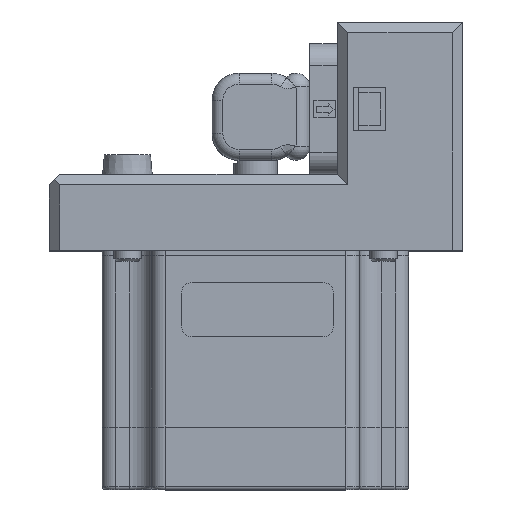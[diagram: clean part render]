
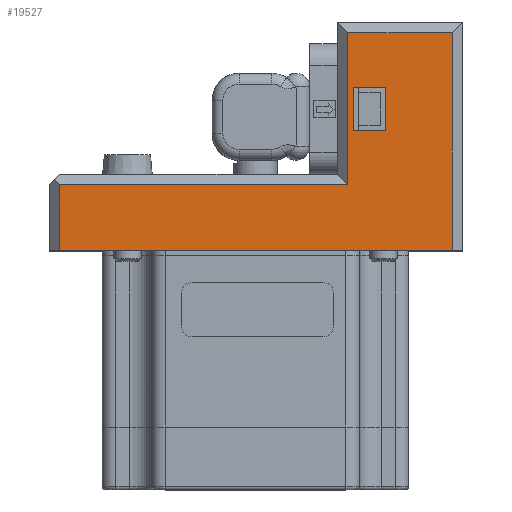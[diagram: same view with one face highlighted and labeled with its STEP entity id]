
A CAD part, top view. The second image highlights one B-rep face of the part: STEP entity #19527.
In plain terms, the highlighted planar face has unit normal (0, 0, 1) as drawn and (0, -1, 0) by its records, which use the part's own axes.
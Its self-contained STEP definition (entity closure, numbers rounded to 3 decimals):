
#1597=FACE_BOUND('',#4250,.T.);
#1954=PLANE('',#21005);
#3042=FACE_OUTER_BOUND('',#4249,.T.);
#4249=EDGE_LOOP('',(#17738,#17739,#17740,#17741,#17742,#17743));
#4250=EDGE_LOOP('',(#17744,#17745,#17746,#17747));
#6083=LINE('',#90027,#7588);
#6086=LINE('',#90033,#7591);
#6089=LINE('',#90039,#7594);
#6092=LINE('',#90043,#7597);
#6124=LINE('',#90148,#7629);
#6152=LINE('',#90230,#7657);
#6154=LINE('',#90235,#7659);
#6158=LINE('',#90242,#7663);
#6177=LINE('',#90287,#7682);
#6205=LINE('',#90457,#7710);
#7588=VECTOR('',#24402,10.);
#7591=VECTOR('',#24407,10.);
#7594=VECTOR('',#24412,10.);
#7597=VECTOR('',#24417,10.);
#7629=VECTOR('',#24517,10.);
#7657=VECTOR('',#24593,10.);
#7659=VECTOR('',#24597,10.);
#7663=VECTOR('',#24603,10.);
#7682=VECTOR('',#24636,10.);
#7710=VECTOR('',#24754,10.);
#9368=VERTEX_POINT('',#90024);
#9369=VERTEX_POINT('',#90026);
#9371=VERTEX_POINT('',#90032);
#9373=VERTEX_POINT('',#90038);
#9410=VERTEX_POINT('',#90144);
#9412=VERTEX_POINT('',#90147);
#9441=VERTEX_POINT('',#90227);
#9442=VERTEX_POINT('',#90229);
#9443=VERTEX_POINT('',#90233);
#9444=VERTEX_POINT('',#90234);
#12095=EDGE_CURVE('',#9369,#9368,#6083,.T.);
#12098=EDGE_CURVE('',#9371,#9369,#6086,.T.);
#12101=EDGE_CURVE('',#9373,#9371,#6089,.T.);
#12104=EDGE_CURVE('',#9368,#9373,#6092,.T.);
#12154=EDGE_CURVE('',#9410,#9412,#6124,.T.);
#12196=EDGE_CURVE('',#9441,#9442,#6152,.T.);
#12198=EDGE_CURVE('',#9443,#9444,#6154,.T.);
#12202=EDGE_CURVE('',#9442,#9443,#6158,.T.);
#12224=EDGE_CURVE('',#9444,#9410,#6177,.T.);
#12282=EDGE_CURVE('',#9412,#9441,#6205,.T.);
#17738=ORIENTED_EDGE('',*,*,#12196,.F.);
#17739=ORIENTED_EDGE('',*,*,#12282,.F.);
#17740=ORIENTED_EDGE('',*,*,#12154,.F.);
#17741=ORIENTED_EDGE('',*,*,#12224,.F.);
#17742=ORIENTED_EDGE('',*,*,#12198,.F.);
#17743=ORIENTED_EDGE('',*,*,#12202,.F.);
#17744=ORIENTED_EDGE('',*,*,#12101,.T.);
#17745=ORIENTED_EDGE('',*,*,#12098,.T.);
#17746=ORIENTED_EDGE('',*,*,#12095,.T.);
#17747=ORIENTED_EDGE('',*,*,#12104,.T.);
#19527=ADVANCED_FACE('',(#3042,#1597),#1954,.T.);
#21005=AXIS2_PLACEMENT_3D('',#90456,#24752,#24753);
#24402=DIRECTION('',(-1.,0.,0.));
#24407=DIRECTION('',(0.,0.,-1.));
#24412=DIRECTION('',(1.,0.,0.));
#24417=DIRECTION('',(0.,0.,1.));
#24517=DIRECTION('',(-1.,0.,0.));
#24593=DIRECTION('',(1.,0.,0.));
#24597=DIRECTION('',(1.,0.,0.));
#24603=DIRECTION('',(0.,0.,1.));
#24636=DIRECTION('',(0.,0.,-1.));
#24752=DIRECTION('center_axis',(0.,-1.,0.));
#24753=DIRECTION('ref_axis',(1.,0.,0.));
#24754=DIRECTION('',(0.,0.,1.));
#90024=CARTESIAN_POINT('',(18.,-63.,12.));
#90026=CARTESIAN_POINT('',(24.,-63.,12.));
#90027=CARTESIAN_POINT('',(-7.,-63.,12.));
#90032=CARTESIAN_POINT('',(24.,-63.,20.));
#90033=CARTESIAN_POINT('',(24.,-63.,10.));
#90038=CARTESIAN_POINT('',(18.,-63.,20.));
#90039=CARTESIAN_POINT('',(-10.,-63.,20.));
#90043=CARTESIAN_POINT('',(18.,-63.,6.));
#90144=CARTESIAN_POINT('',(36.2,-63.,-10.));
#90147=CARTESIAN_POINT('',(-36.,-63.,-10.));
#90148=CARTESIAN_POINT('',(38.2,-63.,-10.));
#90227=CARTESIAN_POINT('',(-36.,-63.,2.));
#90229=CARTESIAN_POINT('',(17.025,-63.,2.));
#90230=CARTESIAN_POINT('',(-18.95,-63.,2.));
#90233=CARTESIAN_POINT('',(17.025,-63.,30.));
#90234=CARTESIAN_POINT('',(36.2,-63.,30.));
#90235=CARTESIAN_POINT('',(-5.694,-63.,30.));
#90242=CARTESIAN_POINT('',(17.025,-63.,16.));
#90287=CARTESIAN_POINT('',(36.2,-63.,0.));
#90456=CARTESIAN_POINT('Origin',(-38.,-63.,0.));
#90457=CARTESIAN_POINT('',(-36.,-63.,0.));
